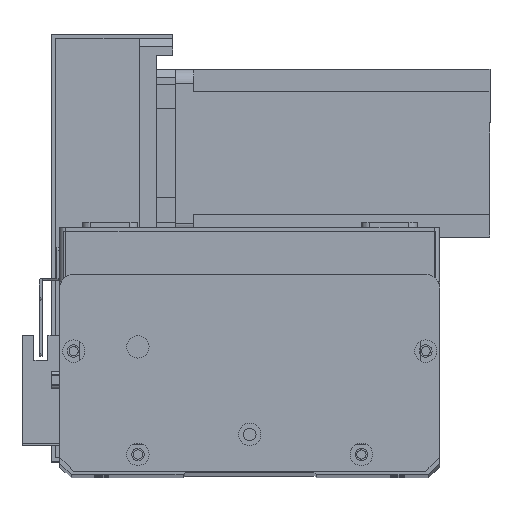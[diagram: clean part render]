
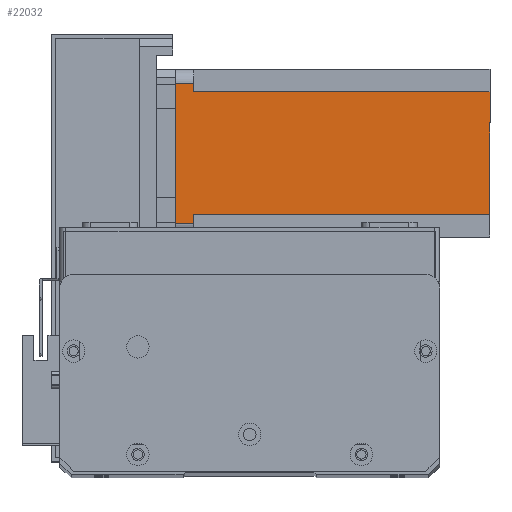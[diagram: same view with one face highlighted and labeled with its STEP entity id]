
A CAD part, top view. The second image highlights one B-rep face of the part: STEP entity #22032.
In plain terms, the highlighted planar face has unit normal (0, 0, 1) as drawn and (0, -1, 0) by its records, which use the part's own axes.
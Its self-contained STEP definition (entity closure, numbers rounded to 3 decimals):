
#763 = DIRECTION ( 'NONE',  ( 0., 0., -1. ) ) ;
#967 = EDGE_LOOP ( 'NONE', ( #3012, #24134, #6756, #10702, #7444, #28633, #8242, #23065 ) ) ;
#1726 = LINE ( 'NONE', #14181, #20163 ) ;
#2368 = EDGE_CURVE ( 'NONE', #14632, #23298, #17986, .T. ) ;
#2741 = DIRECTION ( 'NONE',  ( 0., 0., 1. ) ) ;
#2887 = DIRECTION ( 'NONE',  ( 0., 0., -1. ) ) ;
#2956 = DIRECTION ( 'NONE',  ( 1., 0., 0. ) ) ;
#3012 = ORIENTED_EDGE ( 'NONE', *, *, #25582, .T. ) ;
#4178 = VERTEX_POINT ( 'NONE', #24117 ) ;
#4357 = VERTEX_POINT ( 'NONE', #18808 ) ;
#4590 = VECTOR ( 'NONE', #26954, 1000. ) ;
#4938 = CARTESIAN_POINT ( 'NONE',  ( 8., 0., -6.5 ) ) ;
#5080 = CARTESIAN_POINT ( 'NONE',  ( 52., 0., -6.5 ) ) ;
#5345 = EDGE_CURVE ( 'NONE', #10163, #13885, #19581, .T. ) ;
#6756 = ORIENTED_EDGE ( 'NONE', *, *, #14715, .F. ) ;
#6768 = CARTESIAN_POINT ( 'NONE',  ( 8., 0., -6.5 ) ) ;
#7444 = ORIENTED_EDGE ( 'NONE', *, *, #11875, .F. ) ;
#7799 = LINE ( 'NONE', #13311, #26279 ) ;
#8062 = LINE ( 'NONE', #5080, #18504 ) ;
#8135 = CARTESIAN_POINT ( 'NONE',  ( 8., 0., -112.5 ) ) ;
#8242 = ORIENTED_EDGE ( 'NONE', *, *, #23161, .T. ) ;
#8957 = CARTESIAN_POINT ( 'NONE',  ( 5., 0., -6.5 ) ) ;
#9072 = DIRECTION ( 'NONE',  ( 0., 0., -1. ) ) ;
#9344 = CARTESIAN_POINT ( 'NONE',  ( 55., 0., -6.5 ) ) ;
#9513 = PLANE ( 'NONE',  #20302 ) ;
#10163 = VERTEX_POINT ( 'NONE', #22802 ) ;
#10256 = EDGE_CURVE ( 'NONE', #4357, #24075, #26665, .T. ) ;
#10702 = ORIENTED_EDGE ( 'NONE', *, *, #5345, .T. ) ;
#11875 = EDGE_CURVE ( 'NONE', #23298, #13885, #17163, .T. ) ;
#12013 = DIRECTION ( 'NONE',  ( 0., 0., 1. ) ) ;
#12780 = VECTOR ( 'NONE', #12013, 1000. ) ;
#13311 = CARTESIAN_POINT ( 'NONE',  ( 0., 0., -112.5 ) ) ;
#13885 = VERTEX_POINT ( 'NONE', #8957 ) ;
#14181 = CARTESIAN_POINT ( 'NONE',  ( 0., 0., 0. ) ) ;
#14632 = VERTEX_POINT ( 'NONE', #25021 ) ;
#14715 = EDGE_CURVE ( 'NONE', #10163, #4178, #1726, .T. ) ;
#14797 = VECTOR ( 'NONE', #763, 1000. ) ;
#15003 = CARTESIAN_POINT ( 'NONE',  ( 52., 0., -112.5 ) ) ;
#15168 = FACE_OUTER_BOUND ( 'NONE', #967, .T. ) ;
#16226 = DIRECTION ( 'NONE',  ( 0., -1., 0. ) ) ;
#16389 = EDGE_CURVE ( 'NONE', #21381, #4178, #18311, .T. ) ;
#17163 = LINE ( 'NONE', #6768, #4590 ) ;
#17986 = LINE ( 'NONE', #8135, #12780 ) ;
#18311 = LINE ( 'NONE', #20572, #22909 ) ;
#18504 = VECTOR ( 'NONE', #2956, 1000. ) ;
#18578 = DIRECTION ( 'NONE',  ( 1., 0., 0. ) ) ;
#18808 = CARTESIAN_POINT ( 'NONE',  ( 52., 0., -6.5 ) ) ;
#18895 = VECTOR ( 'NONE', #9072, 1000. ) ;
#19012 = CARTESIAN_POINT ( 'NONE',  ( 5., 0., -112.5 ) ) ;
#19581 = LINE ( 'NONE', #19012, #18895 ) ;
#20163 = VECTOR ( 'NONE', #18578, 1000. ) ;
#20302 = AXIS2_PLACEMENT_3D ( 'NONE', #22800, #16226, #2887 ) ;
#20572 = CARTESIAN_POINT ( 'NONE',  ( 55., 0., -112.5 ) ) ;
#20828 = CARTESIAN_POINT ( 'NONE',  ( 52., 0., -112.5 ) ) ;
#21381 = VERTEX_POINT ( 'NONE', #9344 ) ;
#22032 = ADVANCED_FACE ( 'NONE', ( #15168 ), #9513, .T. ) ;
#22800 = CARTESIAN_POINT ( 'NONE',  ( 0., 0., -112.5 ) ) ;
#22802 = CARTESIAN_POINT ( 'NONE',  ( 5., 0., 0. ) ) ;
#22909 = VECTOR ( 'NONE', #2741, 1000. ) ;
#23065 = ORIENTED_EDGE ( 'NONE', *, *, #10256, .F. ) ;
#23161 = EDGE_CURVE ( 'NONE', #14632, #24075, #7799, .T. ) ;
#23298 = VERTEX_POINT ( 'NONE', #4938 ) ;
#24075 = VERTEX_POINT ( 'NONE', #15003 ) ;
#24117 = CARTESIAN_POINT ( 'NONE',  ( 55., 0., 0. ) ) ;
#24134 = ORIENTED_EDGE ( 'NONE', *, *, #16389, .T. ) ;
#25021 = CARTESIAN_POINT ( 'NONE',  ( 8., 0., -112.5 ) ) ;
#25582 = EDGE_CURVE ( 'NONE', #4357, #21381, #8062, .T. ) ;
#26279 = VECTOR ( 'NONE', #26691, 1000. ) ;
#26665 = LINE ( 'NONE', #20828, #14797 ) ;
#26691 = DIRECTION ( 'NONE',  ( 1., 0., 0. ) ) ;
#26954 = DIRECTION ( 'NONE',  ( -1., 0., 0. ) ) ;
#28633 = ORIENTED_EDGE ( 'NONE', *, *, #2368, .F. ) ;
